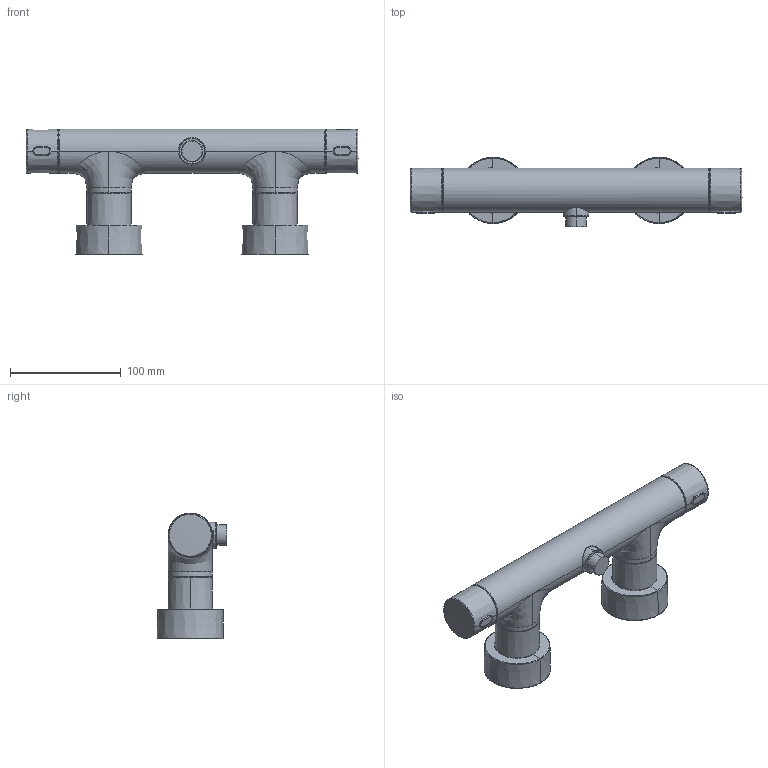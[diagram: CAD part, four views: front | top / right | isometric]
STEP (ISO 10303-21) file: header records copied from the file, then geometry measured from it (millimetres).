
FILE_DESCRIPTION (( 'STEP AP203' ), '1' );
FILE_NAME ('4760(2024).STEP', '2024-03-22T11:32:30', ( '' ), ( '' ), 'SwSTEP 2.0', 'SolidWorks 2016', '' );
FILE_SCHEMA (( 'CONFIG_CONTROL_DESIGN' ));
Length unit declared in the file: millimetre
Products named in the file (1): 4760(2024)
Bounding box: 299.88 x 63.09 x 113.65 mm (x, y, z)
Surface area: 101578.5 mm2 (no closed solid volume)
Topology: 0 solids, 14 shells, 333 faces, 878 edges, 516 vertices
Faces by surface type: bspline 181, cylinder 66, plane 48, cone 22, torus 16
Entity records: 22158 total; most frequent: CARTESIAN_POINT 15536, ORIENTED_EDGE 1628, DIRECTION 1128, EDGE_CURVE 814, VERTEX_POINT 516, AXIS2_PLACEMENT_3D 503, CIRCLE 350, EDGE_LOOP 340
